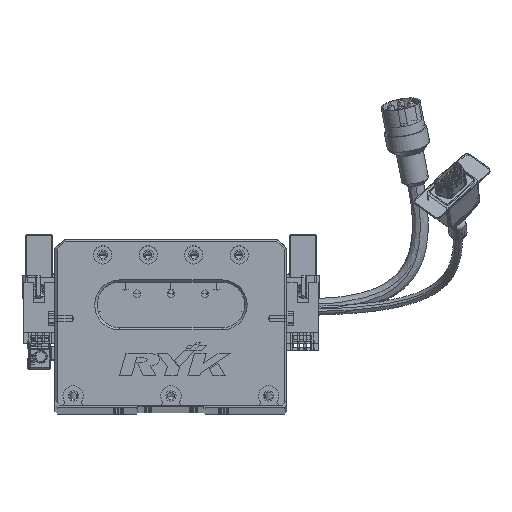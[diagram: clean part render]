
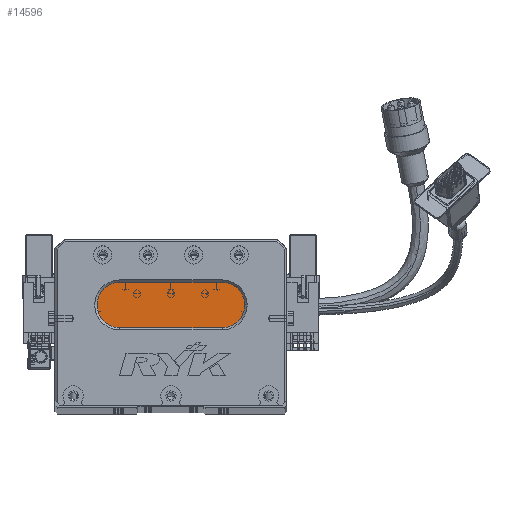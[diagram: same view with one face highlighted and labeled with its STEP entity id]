
A CAD part, top view. The second image highlights one B-rep face of the part: STEP entity #14596.
In plain terms, the highlighted planar face has unit normal (0, 0, 1) as drawn and (0, 0, -1) by its records, which use the part's own axes.
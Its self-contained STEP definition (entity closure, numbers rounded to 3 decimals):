
#1206 = PLANE ( 'NONE',  #30359 ) ;
#5759 = DIRECTION ( 'NONE',  ( -1., 0., 0. ) ) ;
#6022 = CARTESIAN_POINT ( 'NONE',  ( 28.5, 44., 13. ) ) ;
#10957 = DIRECTION ( 'NONE',  ( -1., 0., 0. ) ) ;
#12227 = VERTEX_POINT ( 'NONE', #24238 ) ;
#13022 = AXIS2_PLACEMENT_3D ( 'NONE', #6022, #76243, #10957 ) ;
#14596 = ADVANCED_FACE ( 'NONE', ( #56134 ), #1206, .T. ) ;
#17340 = VERTEX_POINT ( 'NONE', #38379 ) ;
#21192 = CIRCLE ( 'NONE', #50108, 10. ) ;
#22192 = LINE ( 'NONE', #64866, #55537 ) ;
#24238 = CARTESIAN_POINT ( 'NONE',  ( 73.5, 34., 13. ) ) ;
#25938 = VERTEX_POINT ( 'NONE', #57843 ) ;
#26962 = ORIENTED_EDGE ( 'NONE', *, *, #28850, .T. ) ;
#28850 = EDGE_CURVE ( 'NONE', #57329, #70319, #42126, .T. ) ;
#30359 = AXIS2_PLACEMENT_3D ( 'NONE', #42439, #66520, #31525 ) ;
#30376 = CARTESIAN_POINT ( 'NONE',  ( 18.5, 44., 13. ) ) ;
#31525 = DIRECTION ( 'NONE',  ( -1., 0., 0. ) ) ;
#35332 = CIRCLE ( 'NONE', #67507, 10. ) ;
#36729 = CARTESIAN_POINT ( 'NONE',  ( 28.5, 54., 13. ) ) ;
#38379 = CARTESIAN_POINT ( 'NONE',  ( 28.5, 34., 13. ) ) ;
#42126 = CIRCLE ( 'NONE', #13022, 10. ) ;
#42439 = CARTESIAN_POINT ( 'NONE',  ( 73.5, 44., 13. ) ) ;
#43183 = CARTESIAN_POINT ( 'NONE',  ( 28.5, 44., 13. ) ) ;
#48620 = DIRECTION ( 'NONE',  ( -1., 0., 0. ) ) ;
#49274 = EDGE_CURVE ( 'NONE', #25938, #12227, #35332, .T. ) ;
#49331 = CARTESIAN_POINT ( 'NONE',  ( 73.5, 34., 13. ) ) ;
#50108 = AXIS2_PLACEMENT_3D ( 'NONE', #43183, #73163, #48620 ) ;
#50490 = EDGE_CURVE ( 'NONE', #17340, #57329, #21192, .T. ) ;
#53409 = CARTESIAN_POINT ( 'NONE',  ( 73.5, 44., 13. ) ) ;
#55263 = LINE ( 'NONE', #49331, #57140 ) ;
#55477 = DIRECTION ( 'NONE',  ( -1., 0., 0. ) ) ;
#55537 = VECTOR ( 'NONE', #59393, 1000. ) ;
#56134 = FACE_OUTER_BOUND ( 'NONE', #73063, .T. ) ;
#56695 = ORIENTED_EDGE ( 'NONE', *, *, #49274, .T. ) ;
#57140 = VECTOR ( 'NONE', #55477, 1000. ) ;
#57329 = VERTEX_POINT ( 'NONE', #30376 ) ;
#57843 = CARTESIAN_POINT ( 'NONE',  ( 73.5, 54., 13. ) ) ;
#59393 = DIRECTION ( 'NONE',  ( 1., 0., 0. ) ) ;
#60951 = ORIENTED_EDGE ( 'NONE', *, *, #50490, .T. ) ;
#64834 = DIRECTION ( 'NONE',  ( 0., 0., -1. ) ) ;
#64866 = CARTESIAN_POINT ( 'NONE',  ( 73.5, 54., 13. ) ) ;
#65102 = ORIENTED_EDGE ( 'NONE', *, *, #70793, .T. ) ;
#66520 = DIRECTION ( 'NONE',  ( 0., 0., -1. ) ) ;
#67507 = AXIS2_PLACEMENT_3D ( 'NONE', #53409, #64834, #5759 ) ;
#67945 = EDGE_CURVE ( 'NONE', #12227, #17340, #55263, .T. ) ;
#69021 = ORIENTED_EDGE ( 'NONE', *, *, #67945, .T. ) ;
#70319 = VERTEX_POINT ( 'NONE', #36729 ) ;
#70793 = EDGE_CURVE ( 'NONE', #70319, #25938, #22192, .T. ) ;
#73063 = EDGE_LOOP ( 'NONE', ( #56695, #69021, #60951, #26962, #65102 ) ) ;
#73163 = DIRECTION ( 'NONE',  ( 0., 0., -1. ) ) ;
#76243 = DIRECTION ( 'NONE',  ( 0., 0., -1. ) ) ;
